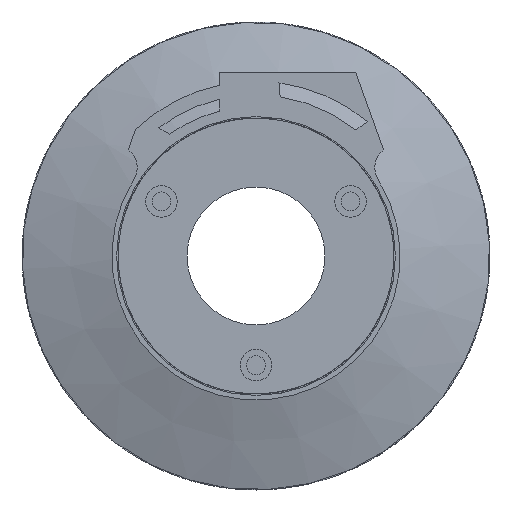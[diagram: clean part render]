
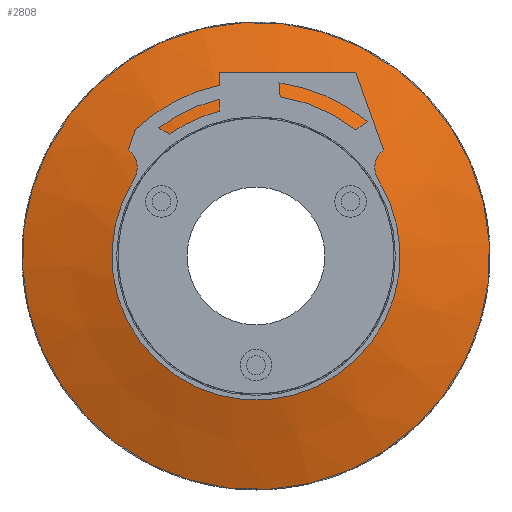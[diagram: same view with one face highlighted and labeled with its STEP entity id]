
A CAD part, front view. The second image highlights one B-rep face of the part: STEP entity #2808.
In plain terms, the highlighted conical face has half-angle 71.885 degrees and reference radius 64.565 mm.
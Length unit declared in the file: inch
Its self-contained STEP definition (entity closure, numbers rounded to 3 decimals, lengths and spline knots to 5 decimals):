
#514 = DIRECTION ( 'NONE',  ( 0., 1., 0. ) ) ;
#518 = CARTESIAN_POINT ( 'NONE',  ( -11.11667, -3.76093, 0. ) ) ;
#594 = DIRECTION ( 'NONE',  ( 0., 0., 1. ) ) ;
#815 = VERTEX_POINT ( 'NONE', #1845 ) ;
#970 = AXIS2_PLACEMENT_3D ( 'NONE', #3032, #3031, #3030 ) ;
#1056 = EDGE_CURVE ( 'NONE', #4930, #4930, #3635, .T. ) ;
#1122 = AXIS2_PLACEMENT_3D ( 'NONE', #518, #514, #594 ) ;
#1126 = AXIS2_PLACEMENT_3D ( 'NONE', #4905, #4366, #4553 ) ;
#1368 = EDGE_CURVE ( 'NONE', #815, #815, #4006, .T. ) ;
#1751 = CARTESIAN_POINT ( 'NONE',  ( -10.2875, -4.09657, -1.26915 ) ) ;
#1845 = CARTESIAN_POINT ( 'NONE',  ( -9.72637, -3.76093, -2.12803 ) ) ;
#2808 = ADVANCED_FACE ( 'NONE', ( #4016, #3847 ), #3613, .T. ) ;
#3030 = DIRECTION ( 'NONE',  ( 0.547, 0., -0.837 ) ) ;
#3031 = DIRECTION ( 'NONE',  ( 0., 1., 0. ) ) ;
#3032 = CARTESIAN_POINT ( 'NONE',  ( -11.11667, -3.76093, 0. ) ) ;
#3613 = CONICAL_SURFACE ( 'NONE', #1122, 2.54193, 1.255 ) ;
#3635 = CIRCLE ( 'NONE', #1126, 1.516 ) ;
#3847 = FACE_BOUND ( 'NONE', #3975, .T. ) ;
#3975 = EDGE_LOOP ( 'NONE', ( #5237 ) ) ;
#4006 = CIRCLE ( 'NONE', #970, 2.54193 ) ;
#4016 = FACE_OUTER_BOUND ( 'NONE', #4088, .T. ) ;
#4088 = EDGE_LOOP ( 'NONE', ( #5253 ) ) ;
#4366 = DIRECTION ( 'NONE',  ( 0., 1., 0. ) ) ;
#4553 = DIRECTION ( 'NONE',  ( 0.547, 0., -0.837 ) ) ;
#4905 = CARTESIAN_POINT ( 'NONE',  ( -11.11667, -4.09657, 0. ) ) ;
#4930 = VERTEX_POINT ( 'NONE', #1751 ) ;
#5237 = ORIENTED_EDGE ( 'NONE', *, *, #1056, .T. ) ;
#5253 = ORIENTED_EDGE ( 'NONE', *, *, #1368, .F. ) ;
